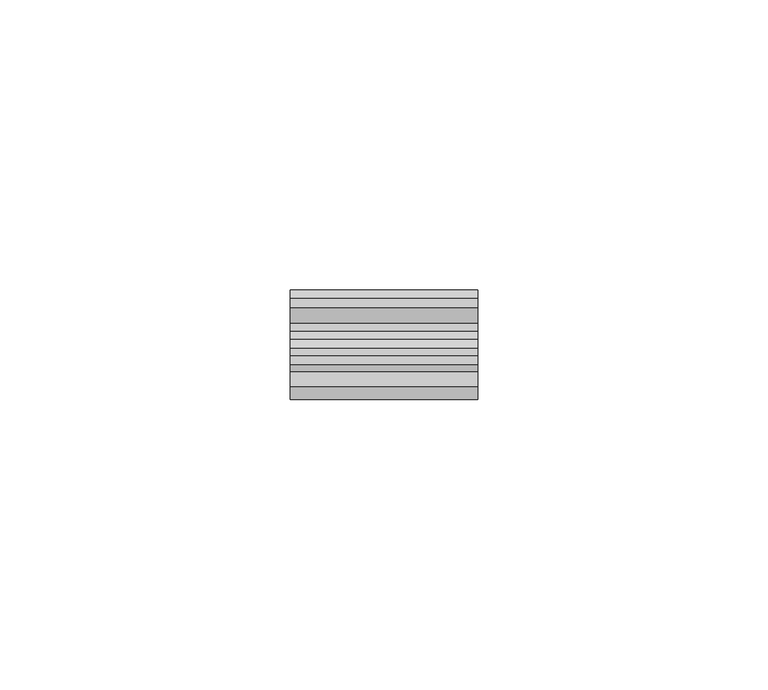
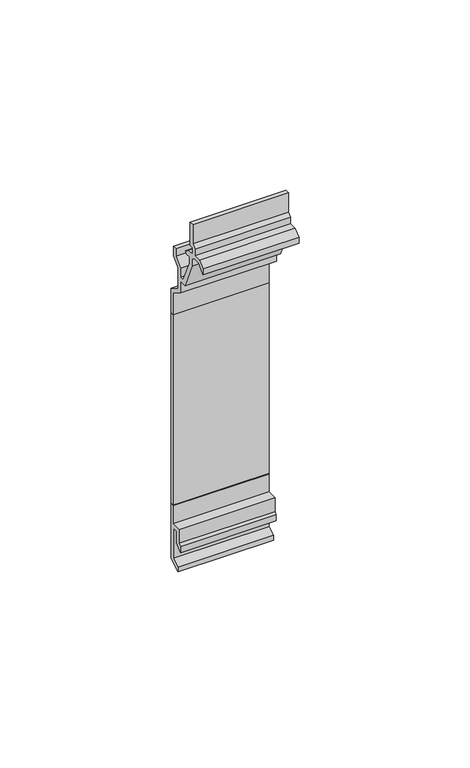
"""IFC4 building model written with IfcOpenShell, lengths in millimetres: plate geometry, FastPlank_P47V-V-Notch-Soffit-Plank : P47V-V-Notch-Soffit-Plank."""

from ifc_helpers import new_model, si_unit, frame, origin, place, context, project, spatial, polyline, outline, extrude, source, transform, mapped, element, save


def plate_38b17508(model_context):
    return source(origin(), model_context, "Body", "SweptSolid", [
        extrude(outline(polyline([(8.1392275, 2.3957023), (3.9892358, 0.0), (3.9892358, 1.7319938), (6.6392305, 3.2617795), (6.6392305, 13.9827581), (4.7892342, 13.9827581), (4.7892342, 9.9691576), (2.5809265, 7.7608499), (2.5809265, 9.8794005), (3.2892372, 10.5877112), (3.2892372, 15.4863039), (6.8392301, 15.4863039), (6.8392301, 21.8363039), (8.1392275, 21.8363039), (8.1392275, 2.3957023)])), frame((-16.1636899, 0.0, 0.0), z_axis=(1.0, 0.0, 0.0), x_axis=(0.0, 1.0, 0.0)), (0.0, 0.0, 1.0), 32.3273797),
        extrude(outline(polyline([(2.4892388, 100.4649994), (2.4892388, 104.5739676), (-0.0110544, 104.5739676), (-4.2015031, 113.9609184), (-4.2015031, 116.7763922), (-5.6541682, 117.6150887), (-8.0416346, 117.6150887), (-10.7353671, 114.9213563), (-10.7353671, 117.0394467), (-8.601943, 118.9150861), (-5.9532063, 118.9150861), (-5.9532063, 121.2437723), (-4.7032087, 122.3427309), (-4.7032087, 129.1909904), (-3.2032117, 129.1909904), (-3.2032117, 120.8578751), (-4.4532093, 120.8578751), (-4.4532093, 118.3909783), (-1.9121554, 118.3909783), (-0.4169473, 117.2227937), (-1.0161739, 116.4558186), (-2.7015061, 116.4558186), (-2.7015061, 114.2522203), (0.9727419, 106.0486482), (2.4892388, 106.0486482), (2.4892388, 109.2361164), (5.1392335, 111.8861111), (5.1392335, 114.5726601), (6.6392305, 114.5726601), (6.6392305, 111.264792), (3.9892358, 108.6147973), (3.9892358, 101.1000834), (8.1392275, 98.7040846), (8.1392275, 90.0478827), (6.8392301, 90.0478827), (6.8392301, 97.9535307), (2.4892388, 100.4649994)])), frame((-16.1636899, 0.0, 0.0), z_axis=(1.0, 0.0, 0.0), x_axis=(0.0, 1.0, 0.0)), (0.0, 0.0, 1.0), 32.3273797),
        extrude(outline(polyline([(-16.1636899, 6.8392301), (-16.1636899, 8.1392275), (16.1636899, 8.1392275), (16.1636899, 6.8392301), (-16.1636899, 6.8392301)])), frame((0.0, 0.0, 21.8363039), z_axis=(0.0, 0.0, 1.0), x_axis=(1.0, 0.0, 0.0)), (0.0, 0.0, 1.0), 68.2115788),
    ])


if __name__ == "__main__":
    model = new_model("IFC4")
    model_context = context("Model", 3, world=origin())
    ifc_project = project(units=[si_unit("LENGTHUNIT", "METRE", prefix="MILLI")], contexts=[model_context])
    site = spatial("IfcSite", under=ifc_project)
    building = spatial("IfcBuilding", under=site)
    placement = place(None, origin())
    plate_shape = plate_38b17508(model_context)
    element("IfcPlate", 1, ObjectType="FastPlank_P47V-V-Notch-Soffit-Plank : P47V-V-Notch-Soffit-Plank", at=placement, inside=building, context=model_context, shape_type="MappedRepresentation", body=[
        mapped(plate_shape, transform((0.0, 0.0, 0.0), x_axis=(1.0, 0.0, 0.0), y_axis=(0.0, 1.0, 0.0), z_axis=(0.0, 0.0, 1.0))),
    ])
    save(model, "model.ifc")
